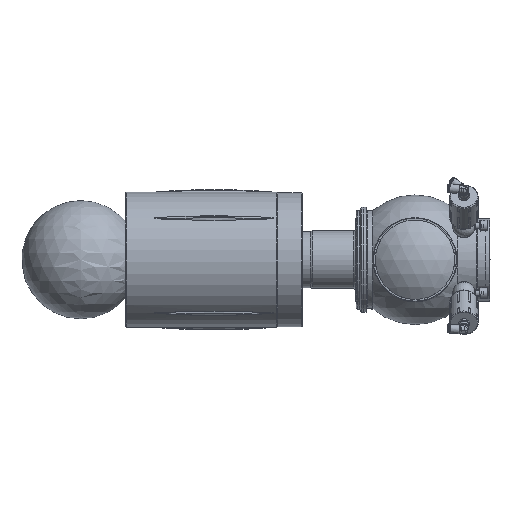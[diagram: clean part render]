
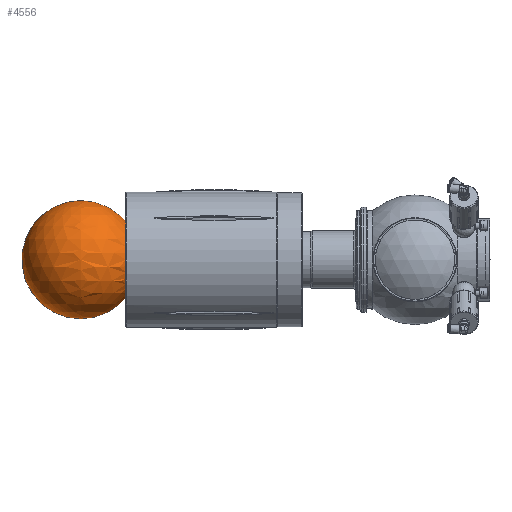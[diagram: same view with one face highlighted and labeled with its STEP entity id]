
A CAD part, left-side view. The second image highlights one B-rep face of the part: STEP entity #4556.
In plain terms, the highlighted spherical face has radius 72.5 mm.
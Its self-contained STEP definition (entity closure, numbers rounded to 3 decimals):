
#101=SPHERICAL_SURFACE('',#5223,72.5);
#297=FACE_BOUND('',#1099,.T.);
#821=FACE_OUTER_BOUND('',#1098,.T.);
#1098=EDGE_LOOP('',(#4282,#4283));
#1099=EDGE_LOOP('',(#4284));
#1828=CIRCLE('',#5224,72.5);
#1829=CIRCLE('',#5225,46.648);
#2303=VERTEX_POINT('',#10447);
#2304=VERTEX_POINT('',#10448);
#2305=VERTEX_POINT('',#10450);
#2964=EDGE_CURVE('',#2303,#2304,#1828,.T.);
#2965=EDGE_CURVE('',#2305,#2305,#1829,.T.);
#4282=ORIENTED_EDGE('',*,*,#2964,.T.);
#4283=ORIENTED_EDGE('',*,*,#2964,.F.);
#4284=ORIENTED_EDGE('',*,*,#2965,.F.);
#4556=ADVANCED_FACE('',(#821,#297),#101,.T.);
#5223=AXIS2_PLACEMENT_3D('',#10446,#6546,#6547);
#5224=AXIS2_PLACEMENT_3D('',#10449,#6548,#6549);
#5225=AXIS2_PLACEMENT_3D('',#10451,#6550,#6551);
#6546=DIRECTION('center_axis',(0.,0.,1.));
#6547=DIRECTION('ref_axis',(1.,0.,0.));
#6548=DIRECTION('center_axis',(0.,-1.,0.));
#6549=DIRECTION('ref_axis',(-1.,0.,0.));
#6550=DIRECTION('center_axis',(0.,-1.,0.));
#6551=DIRECTION('ref_axis',(1.,0.,0.));
#10446=CARTESIAN_POINT('Origin',(150.,266.5,0.));
#10447=CARTESIAN_POINT('',(150.,266.5,72.5));
#10448=CARTESIAN_POINT('',(150.,266.5,-72.5));
#10449=CARTESIAN_POINT('Origin',(150.,266.5,0.));
#10450=CARTESIAN_POINT('',(196.648,211.,0.));
#10451=CARTESIAN_POINT('Origin',(150.,211.,0.));
